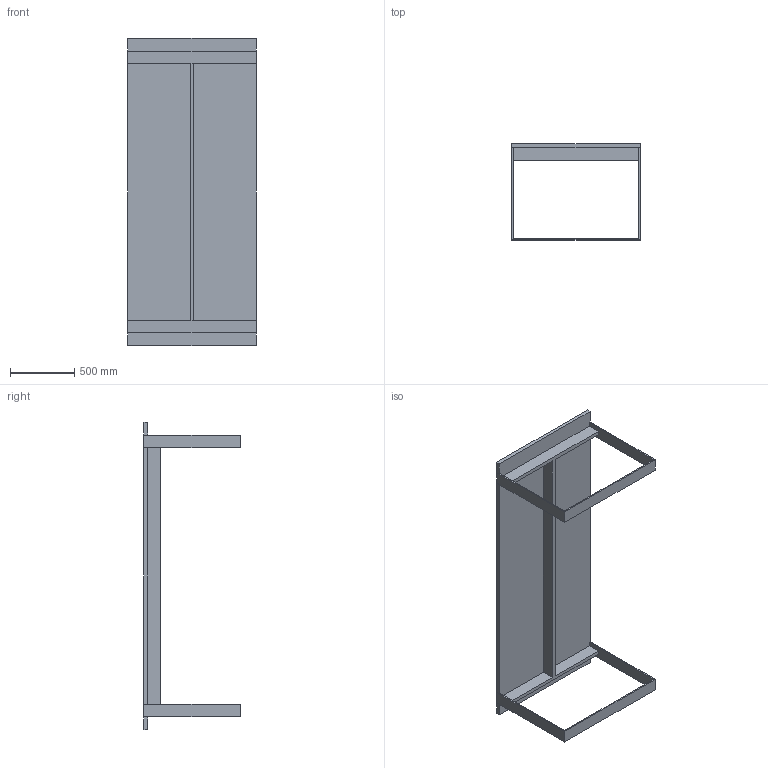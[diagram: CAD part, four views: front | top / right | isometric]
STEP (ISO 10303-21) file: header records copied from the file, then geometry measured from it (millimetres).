
FILE_DESCRIPTION (( 'STEP AP203' ), '1' );
FILE_NAME ('Haag 2400x1000x750.STEP', '2019-04-02T14:34:58', ( '' ), ( '' ), 'SwSTEP 2.0', 'SolidWorks 2019', '' );
FILE_SCHEMA (( 'CONFIG_CONTROL_DESIGN' ));
Length unit declared in the file: millimetre
Products named in the file (1): Haag 2400x1000x750
Bounding box: 1000 x 750 x 2400 mm (x, y, z)
Volume: 88930000 mm3; surface area: 7609800 mm2
Topology: 4 solids, 4 shells, 56 faces, 144 edges, 96 vertices
Faces by surface type: plane 56
Entity records: 1747 total; most frequent: CARTESIAN_POINT 297, ORIENTED_EDGE 288, DIRECTION 258, EDGE_CURVE 144, LINE 144, VECTOR 144, VERTEX_POINT 96, EDGE_LOOP 60
